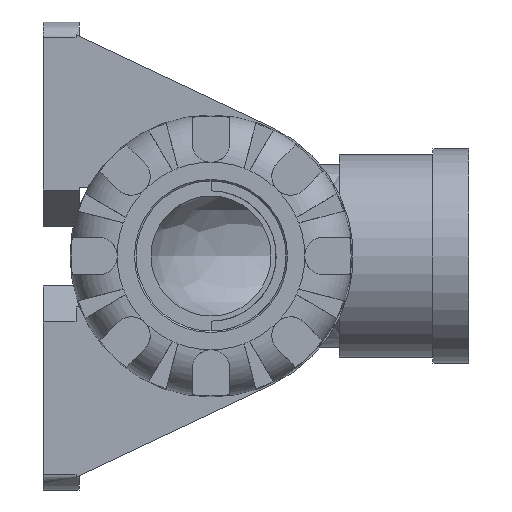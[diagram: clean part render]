
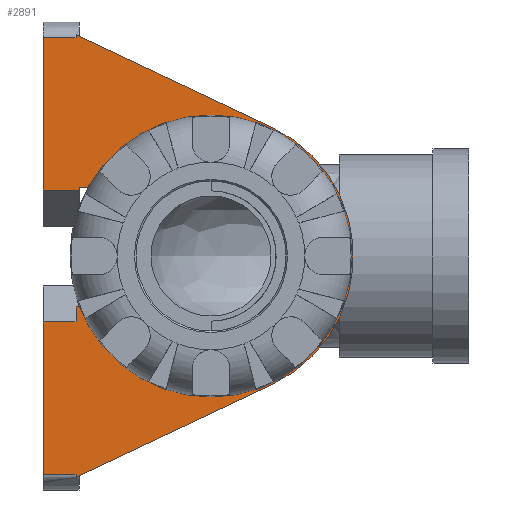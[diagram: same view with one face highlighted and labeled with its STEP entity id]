
A CAD part, left-side view. The second image highlights one B-rep face of the part: STEP entity #2891.
In plain terms, the highlighted planar face has unit normal (-1, 0, 0).
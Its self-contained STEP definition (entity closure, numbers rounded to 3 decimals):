
#157=CIRCLE('',#3054,22.035);
#158=CIRCLE('',#3056,22.035);
#160=CIRCLE('',#3060,23.738);
#171=CIRCLE('',#3081,20.988);
#173=CIRCLE('',#3092,21.276);
#174=CIRCLE('',#3093,21.276);
#340=FACE_OUTER_BOUND('',#508,.T.);
#508=EDGE_LOOP('',(#1923,#1924,#1925,#1926,#1927,#1928,#1929,#1930,#1931,
#1932,#1933,#1934,#1935,#1936,#1937,#1938,#1939,#1940,#1941,#1942,#1943,
#1944));
#671=LINE('',#4131,#875);
#679=LINE('',#4163,#883);
#689=LINE('',#4195,#893);
#700=LINE('',#4226,#904);
#706=LINE('',#4247,#910);
#709=LINE('',#4260,#913);
#714=LINE('',#4269,#918);
#716=LINE('',#4273,#920);
#730=LINE('',#4335,#934);
#735=LINE('',#4345,#939);
#743=LINE('',#4370,#947);
#748=LINE('',#4380,#952);
#749=LINE('',#4381,#953);
#750=LINE('',#4383,#954);
#751=LINE('',#4386,#955);
#752=LINE('',#4389,#956);
#875=VECTOR('',#3333,5.5);
#883=VECTOR('',#3355,5.5);
#893=VECTOR('',#3379,25.353);
#904=VECTOR('',#3404,36.068);
#910=VECTOR('',#3424,0.5);
#913=VECTOR('',#3437,36.068);
#918=VECTOR('',#3444,3.204);
#920=VECTOR('',#3448,0.5);
#934=VECTOR('',#3496,2.5);
#939=VECTOR('',#3503,5.5);
#947=VECTOR('',#3521,6.);
#952=VECTOR('',#3532,0.5);
#953=VECTOR('',#3533,25.353);
#954=VECTOR('',#3534,0.97);
#955=VECTOR('',#3537,1.516);
#956=VECTOR('',#3540,2.996);
#1075=VERTEX_POINT('',#4121);
#1079=VERTEX_POINT('',#4129);
#1088=VERTEX_POINT('',#4159);
#1090=VERTEX_POINT('',#4162);
#1111=VERTEX_POINT('',#4223);
#1112=VERTEX_POINT('',#4225);
#1114=VERTEX_POINT('',#4230);
#1116=VERTEX_POINT('',#4234);
#1117=VERTEX_POINT('',#4238);
#1119=VERTEX_POINT('',#4241);
#1121=VERTEX_POINT('',#4249);
#1125=VERTEX_POINT('',#4258);
#1128=VERTEX_POINT('',#4266);
#1129=VERTEX_POINT('',#4272);
#1153=VERTEX_POINT('',#4325);
#1154=VERTEX_POINT('',#4334);
#1156=VERTEX_POINT('',#4339);
#1158=VERTEX_POINT('',#4343);
#1164=VERTEX_POINT('',#4368);
#1167=VERTEX_POINT('',#4382);
#1168=VERTEX_POINT('',#4385);
#1169=VERTEX_POINT('',#4387);
#1349=EDGE_CURVE('',#1079,#1075,#671,.T.);
#1361=EDGE_CURVE('',#1090,#1088,#679,.T.);
#1375=EDGE_CURVE('',#1090,#1079,#689,.T.);
#1391=EDGE_CURVE('',#1112,#1111,#700,.T.);
#1396=EDGE_CURVE('',#1114,#1116,#157,.T.);
#1398=EDGE_CURVE('',#1119,#1117,#158,.T.);
#1401=EDGE_CURVE('',#1088,#1112,#706,.T.);
#1402=EDGE_CURVE('',#1111,#1121,#160,.T.);
#1407=EDGE_CURVE('',#1121,#1125,#709,.T.);
#1412=EDGE_CURVE('',#1128,#1119,#714,.T.);
#1414=EDGE_CURVE('',#1128,#1129,#716,.T.);
#1441=EDGE_CURVE('',#1153,#1114,#171,.T.);
#1443=EDGE_CURVE('',#1154,#1075,#730,.T.);
#1448=EDGE_CURVE('',#1158,#1156,#735,.T.);
#1458=EDGE_CURVE('',#1164,#1129,#743,.T.);
#1463=EDGE_CURVE('',#1125,#1156,#748,.T.);
#1464=EDGE_CURVE('',#1158,#1164,#749,.T.);
#1465=EDGE_CURVE('',#1117,#1167,#750,.T.);
#1466=EDGE_CURVE('',#1153,#1167,#173,.T.);
#1467=EDGE_CURVE('',#1116,#1168,#751,.T.);
#1468=EDGE_CURVE('',#1169,#1168,#174,.T.);
#1469=EDGE_CURVE('',#1169,#1154,#752,.T.);
#1923=ORIENTED_EDGE('',*,*,#1401,.T.);
#1924=ORIENTED_EDGE('',*,*,#1391,.T.);
#1925=ORIENTED_EDGE('',*,*,#1402,.T.);
#1926=ORIENTED_EDGE('',*,*,#1407,.T.);
#1927=ORIENTED_EDGE('',*,*,#1463,.T.);
#1928=ORIENTED_EDGE('',*,*,#1448,.F.);
#1929=ORIENTED_EDGE('',*,*,#1464,.T.);
#1930=ORIENTED_EDGE('',*,*,#1458,.T.);
#1931=ORIENTED_EDGE('',*,*,#1414,.F.);
#1932=ORIENTED_EDGE('',*,*,#1412,.T.);
#1933=ORIENTED_EDGE('',*,*,#1398,.T.);
#1934=ORIENTED_EDGE('',*,*,#1465,.T.);
#1935=ORIENTED_EDGE('',*,*,#1466,.F.);
#1936=ORIENTED_EDGE('',*,*,#1441,.T.);
#1937=ORIENTED_EDGE('',*,*,#1396,.T.);
#1938=ORIENTED_EDGE('',*,*,#1467,.T.);
#1939=ORIENTED_EDGE('',*,*,#1468,.F.);
#1940=ORIENTED_EDGE('',*,*,#1469,.T.);
#1941=ORIENTED_EDGE('',*,*,#1443,.T.);
#1942=ORIENTED_EDGE('',*,*,#1349,.F.);
#1943=ORIENTED_EDGE('',*,*,#1375,.F.);
#1944=ORIENTED_EDGE('',*,*,#1361,.T.);
#2611=PLANE('',#3091);
#2891=ADVANCED_FACE('',(#340),#2611,.T.);
#3054=AXIS2_PLACEMENT_3D('',#4236,#3412,#3413);
#3056=AXIS2_PLACEMENT_3D('',#4242,#3417,#3418);
#3060=AXIS2_PLACEMENT_3D('',#4250,#3427,#3428);
#3081=AXIS2_PLACEMENT_3D('',#4326,#3492,#3493);
#3091=AXIS2_PLACEMENT_3D('',#4379,#3530,#3531);
#3092=AXIS2_PLACEMENT_3D('',#4384,#3535,#3536);
#3093=AXIS2_PLACEMENT_3D('',#4388,#3538,#3539);
#3333=DIRECTION('',(0.,-1.,0.));
#3355=DIRECTION('',(0.,-1.,0.));
#3379=DIRECTION('',(0.,0.,1.));
#3404=DIRECTION('',(0.,-0.905,0.426));
#3412=DIRECTION('center_axis',(1.,0.,0.));
#3413=DIRECTION('ref_axis',(0.,-0.853,0.522));
#3417=DIRECTION('center_axis',(1.,0.,0.));
#3418=DIRECTION('ref_axis',(0.,-0.853,0.522));
#3424=DIRECTION('',(0.,0.,-1.));
#3427=DIRECTION('center_axis',(-1.,0.,0.));
#3428=DIRECTION('ref_axis',(0.,-0.426,-0.905));
#3437=DIRECTION('',(0.,0.905,0.426));
#3444=DIRECTION('',(0.,-1.,0.));
#3448=DIRECTION('',(0.,0.,-1.));
#3492=DIRECTION('center_axis',(-1.,0.,0.));
#3493=DIRECTION('ref_axis',(0.,-0.437,-0.899));
#3496=DIRECTION('',(0.,0.,-1.));
#3503=DIRECTION('',(0.,-1.,0.));
#3521=DIRECTION('',(0.,-1.,0.));
#3530=DIRECTION('center_axis',(-1.,0.,0.));
#3531=DIRECTION('ref_axis',(0.,0.,-1.));
#3532=DIRECTION('',(0.,0.,-1.));
#3533=DIRECTION('',(0.,0.,-1.));
#3534=DIRECTION('',(0.,-1.,0.));
#3535=DIRECTION('center_axis',(-1.,0.,0.));
#3536=DIRECTION('ref_axis',(0.,0.,1.));
#3537=DIRECTION('',(0.,-0.899,0.437));
#3538=DIRECTION('center_axis',(-1.,0.,0.));
#3539=DIRECTION('ref_axis',(0.,0.,1.));
#3540=DIRECTION('',(0.,1.,0.));
#4121=CARTESIAN_POINT('',(-41.,22.5,-11.));
#4129=CARTESIAN_POINT('',(-41.,28.,-11.));
#4131=CARTESIAN_POINT('',(-41.,28.,-11.));
#4159=CARTESIAN_POINT('',(-41.,22.5,-36.353));
#4162=CARTESIAN_POINT('',(-41.,28.,-36.353));
#4163=CARTESIAN_POINT('',(-41.,28.,-36.353));
#4195=CARTESIAN_POINT('',(-41.,28.,-36.277));
#4223=CARTESIAN_POINT('',(-41.,-10.123,-21.471));
#4225=CARTESIAN_POINT('',(-41.,22.5,-36.853));
#4226=CARTESIAN_POINT('',(-41.,22.5,-36.853));
#4230=CARTESIAN_POINT('',(-41.,-19.502,10.257));
#4234=CARTESIAN_POINT('',(-41.,2.23,-21.922));
#4236=CARTESIAN_POINT('Origin',(-41.,0.,0.));
#4238=CARTESIAN_POINT('',(-41.,17.415,13.5));
#4241=CARTESIAN_POINT('',(-41.,18.796,11.5));
#4242=CARTESIAN_POINT('Origin',(-41.,0.,0.));
#4247=CARTESIAN_POINT('',(-41.,22.5,-11.5));
#4249=CARTESIAN_POINT('',(-41.,-10.123,21.471));
#4250=CARTESIAN_POINT('Origin',(-41.,0.,0.));
#4258=CARTESIAN_POINT('',(-41.,22.5,36.853));
#4260=CARTESIAN_POINT('',(-41.,-10.123,21.471));
#4266=CARTESIAN_POINT('',(-41.,22.,11.5));
#4269=CARTESIAN_POINT('',(-41.,22.5,11.5));
#4272=CARTESIAN_POINT('',(-41.,22.,11.));
#4273=CARTESIAN_POINT('',(-41.,22.,36.277));
#4325=CARTESIAN_POINT('',(-41.,-20.954,3.686));
#4326=CARTESIAN_POINT('Origin',(-41.,0.,2.5));
#4334=CARTESIAN_POINT('',(-41.,22.5,-8.5));
#4335=CARTESIAN_POINT('',(-41.,22.5,-8.5));
#4339=CARTESIAN_POINT('',(-41.,22.5,36.353));
#4343=CARTESIAN_POINT('',(-41.,28.,36.353));
#4345=CARTESIAN_POINT('',(-41.,28.,36.353));
#4368=CARTESIAN_POINT('',(-41.,28.,11.));
#4370=CARTESIAN_POINT('',(-41.,28.,11.));
#4379=CARTESIAN_POINT('Origin',(-41.,28.,36.277));
#4380=CARTESIAN_POINT('',(-41.,22.5,36.777));
#4381=CARTESIAN_POINT('',(-41.,28.,36.353));
#4382=CARTESIAN_POINT('',(-41.,16.445,13.5));
#4383=CARTESIAN_POINT('',(-41.,22.5,13.5));
#4384=CARTESIAN_POINT('Origin',(-41.,0.,
0.));
#4385=CARTESIAN_POINT('',(-41.,0.866,-21.259));
#4386=CARTESIAN_POINT('',(-41.,22.5,-31.777));
#4387=CARTESIAN_POINT('',(-41.,19.504,-8.5));
#4388=CARTESIAN_POINT('Origin',(-41.,0.,
0.));
#4389=CARTESIAN_POINT('',(-41.,14.874,-8.5));
